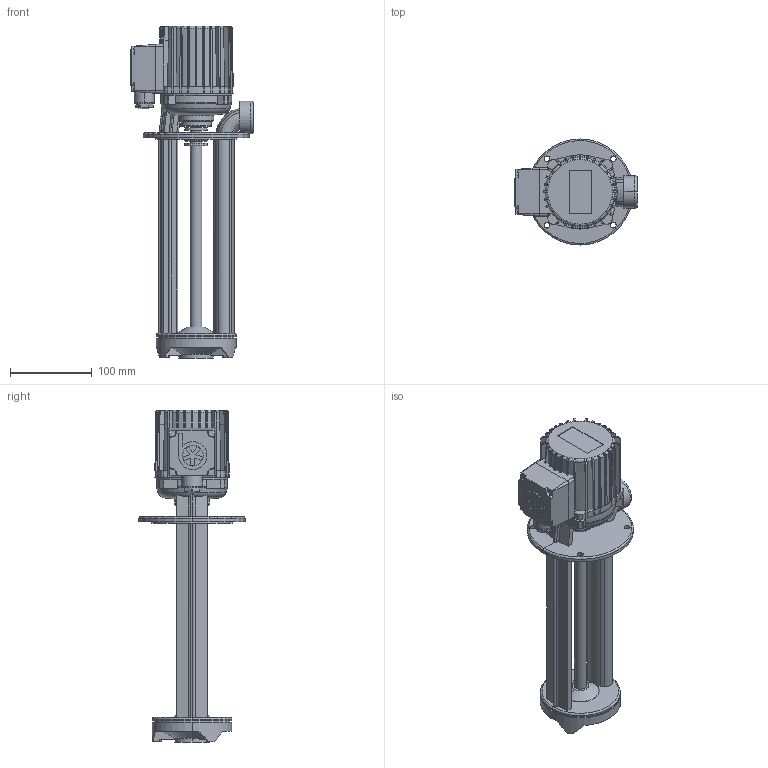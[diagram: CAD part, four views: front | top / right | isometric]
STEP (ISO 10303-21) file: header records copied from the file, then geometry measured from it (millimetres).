
FILE_DESCRIPTION(('no description'),'unknown implementation level');
FILE_NAME('TB40_270_20.stp',' ',('K. H. Brinkmann GmbH & Co. KG'),('CADClick - KiM GmbH - www.kimweb.de'),'unknown preprocess','ACIS','unknown authorization');
FILE_SCHEMA(('automotive_design'));
Length unit declared in the file: millimetre
Products named in the file (3): 1; 2; 3
Bounding box: 150 x 130 x 407 mm (x, y, z)
Volume: 1412061.4 mm3; surface area: 217212.9 mm2
Topology: 3 solids, 3 shells, 602 faces, 1605 edges, 1027 vertices
Faces by surface type: plane 287, cylinder 153, torus 87, cone 75
Entity records: 41009 total; most frequent: CARTESIAN_POINT 8203, STYLED_ITEM 3237, PRESENTATION_STYLE_ASSIGNMENT 3237, COLOUR_RGB 3237, ORIENTED_EDGE 3210, DIRECTION 3052, EDGE_CURVE 1605, CURVE_STYLE 1605
